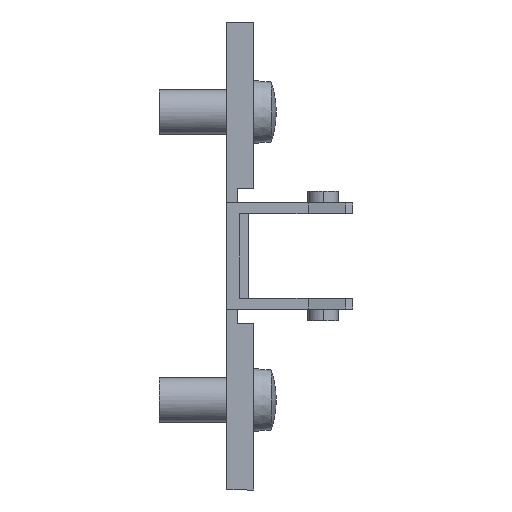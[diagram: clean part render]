
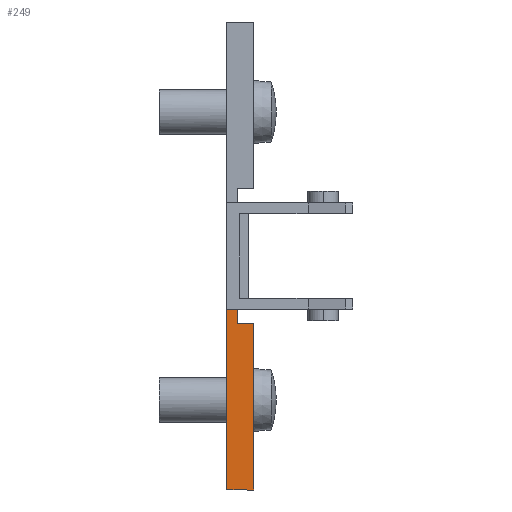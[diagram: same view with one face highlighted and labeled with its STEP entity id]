
A CAD part, front view. The second image highlights one B-rep face of the part: STEP entity #249.
In plain terms, the highlighted planar face has unit normal (0, -1, 0).
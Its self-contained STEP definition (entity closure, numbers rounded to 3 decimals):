
#181 = CARTESIAN_POINT ( 'NONE',  ( 1.2, -9., -5. ) ) ;
#186 = DIRECTION ( 'NONE',  ( 0., 1., 0. ) ) ;
#187 = DIRECTION ( 'NONE',  ( 0., 0., 1. ) ) ;
#249 = ADVANCED_FACE ( 'NONE', ( #1931 ), #1374, .F. ) ;
#336 = CARTESIAN_POINT ( 'NONE',  ( 1.2, -9., -5. ) ) ;
#369 = DIRECTION ( 'NONE',  ( 0., 0., 1. ) ) ;
#393 = DIRECTION ( 'NONE',  ( 0., 0., 1. ) ) ;
#398 = CARTESIAN_POINT ( 'NONE',  ( 3., -9., -7.5 ) ) ;
#399 = DIRECTION ( 'NONE',  ( 1., 0., 0. ) ) ;
#566 = CARTESIAN_POINT ( 'NONE',  ( 3., -9., -26. ) ) ;
#745 = EDGE_CURVE ( 'NONE', #1421, #1237, #1836, .T. ) ;
#821 = EDGE_CURVE ( 'NONE', #1220, #1236, #1763, .T. ) ;
#845 = AXIS2_PLACEMENT_3D ( 'NONE', #181, #186, #187 ) ;
#849 = EDGE_CURVE ( 'NONE', #1237, #1211, #1736, .T. ) ;
#950 = EDGE_CURVE ( 'NONE', #1211, #1220, #1649, .T. ) ;
#995 = EDGE_CURVE ( 'NONE', #1106, #1421, #1445, .T. ) ;
#1106 = VERTEX_POINT ( 'NONE', #2710 ) ;
#1211 = VERTEX_POINT ( 'NONE', #2691 ) ;
#1220 = VERTEX_POINT ( 'NONE', #2694 ) ;
#1236 = VERTEX_POINT ( 'NONE', #2743 ) ;
#1237 = VERTEX_POINT ( 'NONE', #2787 ) ;
#1374 = PLANE ( 'NONE',  #845 ) ;
#1421 = VERTEX_POINT ( 'NONE', #2329 ) ;
#1445 = LINE ( 'NONE', #2239, #1448 ) ;
#1448 = VECTOR ( 'NONE', #2302, 1000. ) ;
#1599 = VECTOR ( 'NONE', #2392, 1000. ) ;
#1601 = LINE ( 'NONE', #2376, #1599 ) ;
#1649 = LINE ( 'NONE', #2579, #1651 ) ;
#1651 = VECTOR ( 'NONE', #2609, 1000. ) ;
#1735 = VECTOR ( 'NONE', #393, 1000. ) ;
#1736 = LINE ( 'NONE', #398, #1735 ) ;
#1763 = LINE ( 'NONE', #336, #1767 ) ;
#1767 = VECTOR ( 'NONE', #369, 1000. ) ;
#1831 = VECTOR ( 'NONE', #399, 1000. ) ;
#1836 = LINE ( 'NONE', #566, #1831 ) ;
#1931 = FACE_OUTER_BOUND ( 'NONE', #3507, .T. ) ;
#2018 = EDGE_CURVE ( 'NONE', #1106, #1236, #1601, .T. ) ;
#2239 = CARTESIAN_POINT ( 'NONE',  ( 0., -9., -26. ) ) ;
#2302 = DIRECTION ( 'NONE',  ( 0., 0., -1. ) ) ;
#2329 = CARTESIAN_POINT ( 'NONE',  ( 0., -9., -26. ) ) ;
#2376 = CARTESIAN_POINT ( 'NONE',  ( 1.2, -9., -5.9 ) ) ;
#2392 = DIRECTION ( 'NONE',  ( 1., 0., 0. ) ) ;
#2579 = CARTESIAN_POINT ( 'NONE',  ( 1.2, -9., -7.5 ) ) ;
#2609 = DIRECTION ( 'NONE',  ( -1., 0., 0. ) ) ;
#2691 = CARTESIAN_POINT ( 'NONE',  ( 3., -9., -7.5 ) ) ;
#2694 = CARTESIAN_POINT ( 'NONE',  ( 1.2, -9., -7.5 ) ) ;
#2710 = CARTESIAN_POINT ( 'NONE',  ( 0., -9., -5.9 ) ) ;
#2743 = CARTESIAN_POINT ( 'NONE',  ( 1.2, -9., -5.9 ) ) ;
#2787 = CARTESIAN_POINT ( 'NONE',  ( 3., -9., -26. ) ) ;
#2978 = ORIENTED_EDGE ( 'NONE', *, *, #2018, .F. ) ;
#2979 = ORIENTED_EDGE ( 'NONE', *, *, #995, .T. ) ;
#2980 = ORIENTED_EDGE ( 'NONE', *, *, #745, .T. ) ;
#2982 = ORIENTED_EDGE ( 'NONE', *, *, #849, .T. ) ;
#2983 = ORIENTED_EDGE ( 'NONE', *, *, #950, .T. ) ;
#2984 = ORIENTED_EDGE ( 'NONE', *, *, #821, .T. ) ;
#3507 = EDGE_LOOP ( 'NONE', ( #2978, #2979, #2980, #2982, #2983, #2984 ) ) ;
